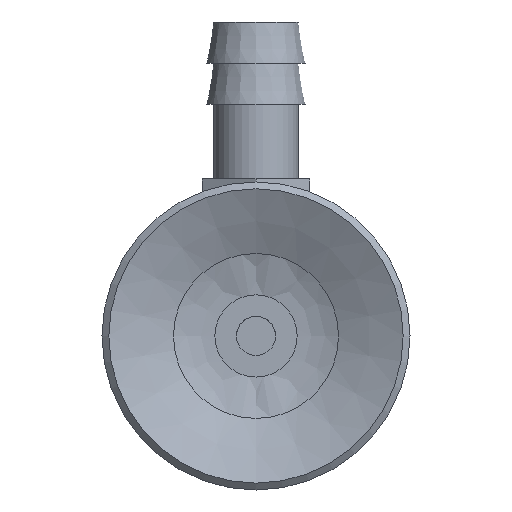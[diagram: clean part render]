
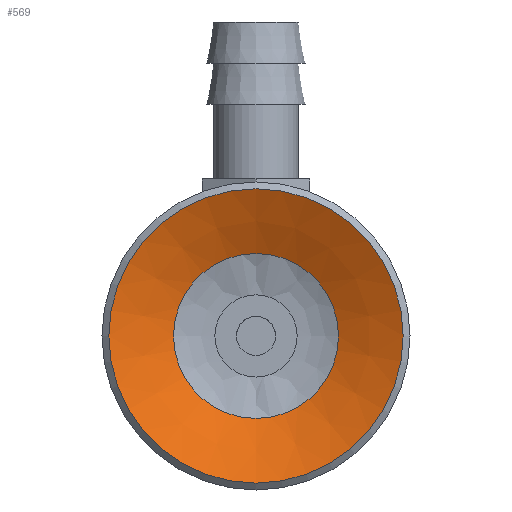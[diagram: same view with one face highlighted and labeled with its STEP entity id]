
A CAD part, front view. The second image highlights one B-rep face of the part: STEP entity #569.
In plain terms, the highlighted conical face has half-angle 65.056 degrees and reference radius 3.2 mm.
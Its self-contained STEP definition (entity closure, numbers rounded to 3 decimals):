
#569=ADVANCED_FACE('',(#871,#872),#873,.F.);
#871=FACE_BOUND('',#1206,.T.);
#872=FACE_OUTER_BOUND('',#1207,.T.);
#873=CONICAL_SURFACE('',#1208,3.2,1.135);
#1206=EDGE_LOOP('',(#2050));
#1207=EDGE_LOOP('',(#2051));
#1208=AXIS2_PLACEMENT_3D('',#2052,#2053,#2054);
#2050=ORIENTED_EDGE('',*,*,#2377,.T.);
#2051=ORIENTED_EDGE('',*,*,#2376,.T.);
#2052=CARTESIAN_POINT('',(0.0,7.896,0.0));
#2053=DIRECTION('',(-0.0,-1.0,0.));
#2054=DIRECTION('',(0.0,0.,-1.0));
#2376=EDGE_CURVE('',#2759,#2759,#2760,.T.);
#2377=EDGE_CURVE('',#2761,#2761,#2762,.T.);
#2759=VERTEX_POINT('',#3591);
#2760=CIRCLE('',#3592,7.5);
#2761=VERTEX_POINT('',#3593);
#2762=CIRCLE('',#3594,4.203);
#3591=CARTESIAN_POINT('',(0.0,5.896,-7.5));
#3592=AXIS2_PLACEMENT_3D('',#3972,#3973,#3974);
#3593=CARTESIAN_POINT('',(0.0,7.43,-4.203));
#3594=AXIS2_PLACEMENT_3D('',#3975,#3976,#3977);
#3972=CARTESIAN_POINT('',(0.0,5.896,0.0));
#3973=DIRECTION('',(0.0,-1.0,0.));
#3974=DIRECTION('',(0.0,0.,-1.0));
#3975=CARTESIAN_POINT('',(0.0,7.43,0.0));
#3976=DIRECTION('',(0.0,1.0,0.));
#3977=DIRECTION('',(0.0,0.,-1.0));
